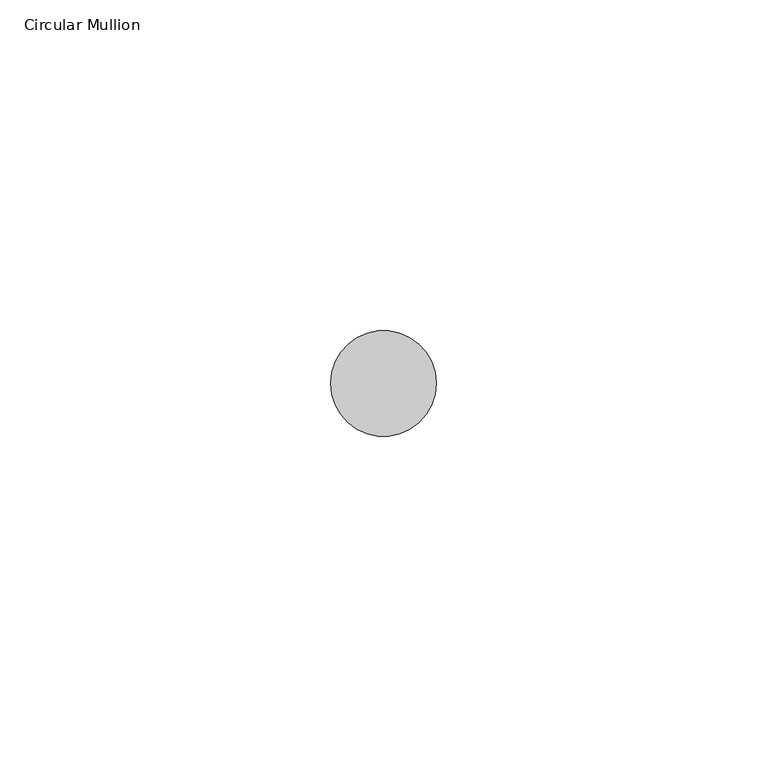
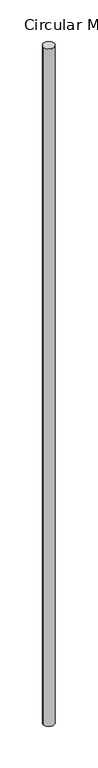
"""IFC4 building model written with IfcOpenShell, lengths in millimetres: member geometry, Circular Mullion : ARQ_HERR_16mm."""

from ifc_helpers import new_model, si_unit, point, frame, origin, origin_2d, place, context, project, spatial, circle_curve, trimmed, segment, composite_curve, outline, extrude, source, transform, mapped, element, save


def circular_mullion_e15963ea(model_context):
    return source(origin(), model_context, "Body", "SweptSolid", [
        extrude(outline(composite_curve([segment(trimmed(circle_curve(origin_2d(), 8.0), [point((8.0, 0.0))], [point((-8.0, 0.0))], False, "CARTESIAN"), True, "CONTINUOUS"), segment(trimmed(circle_curve(origin_2d(), 8.0), [point((-8.0, 0.0))], [point((8.0, 0.0))], False, "CARTESIAN"), True, "CONTINUOUS")], self_intersect=False)), frame((0.0, 0.0, -1027.9937993), z_axis=(0.0, 0.0, 1.0), x_axis=(1.0, 0.0, 0.0)), (0.0, 0.0, 1.0), 1027.9937993),
    ])


if __name__ == "__main__":
    model = new_model("IFC4")
    model_context = context("Model", 3, world=origin())
    ifc_project = project(units=[si_unit("LENGTHUNIT", "METRE", prefix="MILLI")], contexts=[model_context])
    site = spatial("IfcSite", under=ifc_project)
    building = spatial("IfcBuilding", under=site)
    placement = place(None, origin())
    circular_mullion_shape = circular_mullion_e15963ea(model_context)
    element("IfcMember", 1, ObjectType="Circular Mullion : ARQ_HERR_16mm", at=placement, inside=building, context=model_context, shape_type="MappedRepresentation", body=[
        mapped(circular_mullion_shape, transform((0.0, 0.0, 0.0), x_axis=(1.0, 0.0, 0.0), y_axis=(0.0, 1.0, 0.0), z_axis=(0.0, 0.0, 1.0))),
    ])
    save(model, "model.ifc")
